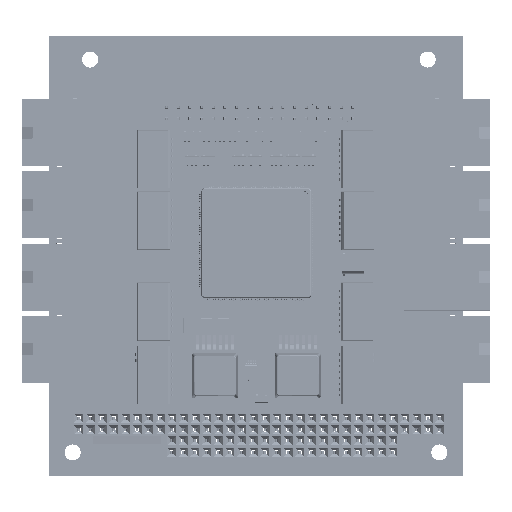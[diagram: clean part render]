
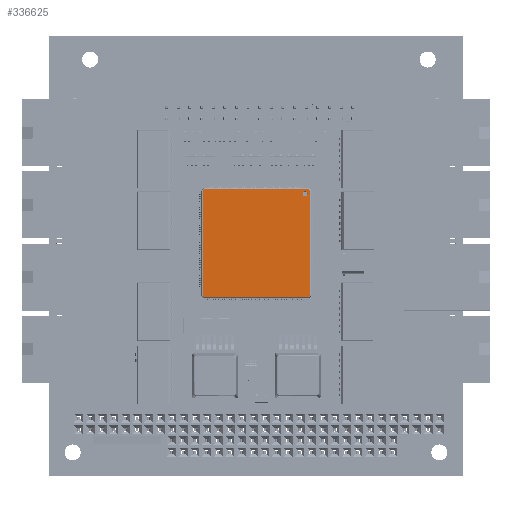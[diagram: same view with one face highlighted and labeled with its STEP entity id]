
A CAD part, top view. The second image highlights one B-rep face of the part: STEP entity #336625.
In plain terms, the highlighted planar face has unit normal (0, 0, 1).
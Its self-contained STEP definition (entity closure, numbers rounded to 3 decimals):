
#10899 = EDGE_CURVE ( 'NONE', #442462, #134359, #282522, .T. ) ;
#17541 = CARTESIAN_POINT ( 'NONE',  ( 56.883, 62.208, 3.185 ) ) ;
#30716 = ORIENTED_EDGE ( 'NONE', *, *, #275380, .T. ) ;
#46484 = CARTESIAN_POINT ( 'NONE',  ( 33.726, 62.453, 3.185 ) ) ;
#54487 = VERTEX_POINT ( 'NONE', #90136 ) ;
#62858 = VERTEX_POINT ( 'NONE', #126207 ) ;
#64903 = VECTOR ( 'NONE', #278853, 1000. ) ;
#68955 = EDGE_CURVE ( 'NONE', #54487, #54487, #192139, .T. ) ;
#73791 = VERTEX_POINT ( 'NONE', #284207 ) ;
#75208 = ORIENTED_EDGE ( 'NONE', *, *, #10899, .T. ) ;
#81117 = DIRECTION ( 'NONE',  ( 0., -1., 0. ) ) ;
#88735 = CARTESIAN_POINT ( 'NONE',  ( 56.939, 39.432, 3.185 ) ) ;
#90136 = CARTESIAN_POINT ( 'NONE',  ( 55.782, 60.952, 3.185 ) ) ;
#94923 = ORIENTED_EDGE ( 'NONE', *, *, #177103, .T. ) ;
#107227 = LINE ( 'NONE', #189041, #439431 ) ;
#110237 = FACE_BOUND ( 'NONE', #150583, .T. ) ;
#110587 = AXIS2_PLACEMENT_3D ( 'NONE', #434553, #475298, #360500 ) ;
#114715 = EDGE_CURVE ( 'NONE', #159945, #422964, #317110, .T. ) ;
#121698 = DIRECTION ( 'NONE',  ( 1., 0., 0. ) ) ;
#124628 = CARTESIAN_POINT ( 'NONE',  ( 33.481, 39.376, 3.185 ) ) ;
#126207 = CARTESIAN_POINT ( 'NONE',  ( 56.883, 62.128, 3.185 ) ) ;
#129546 = DIRECTION ( 'NONE',  ( 0.707, 0.707, 0. ) ) ;
#129727 = DIRECTION ( 'NONE',  ( 0., 1., 0. ) ) ;
#134359 = VERTEX_POINT ( 'NONE', #216466 ) ;
#138103 = EDGE_LOOP ( 'NONE', ( #75208, #451521, #30716, #478266, #448336, #438617, #94923, #143299 ) ) ;
#143299 = ORIENTED_EDGE ( 'NONE', *, *, #411806, .T. ) ;
#143426 = DIRECTION ( 'NONE',  ( -0.707, 0.707, 0. ) ) ;
#150583 = EDGE_LOOP ( 'NONE', ( #177477 ) ) ;
#156105 = DIRECTION ( 'NONE',  ( 0.707, -0.707, 0. ) ) ;
#159945 = VERTEX_POINT ( 'NONE', #301252 ) ;
#163750 = CARTESIAN_POINT ( 'NONE',  ( 33.862, 38.995, 3.185 ) ) ;
#165285 = DIRECTION ( 'NONE',  ( 0., 0., -1. ) ) ;
#171504 = VECTOR ( 'NONE', #143426, 1000. ) ;
#177103 = EDGE_CURVE ( 'NONE', #397655, #278820, #317265, .T. ) ;
#177477 = ORIENTED_EDGE ( 'NONE', *, *, #68955, .T. ) ;
#189041 = CARTESIAN_POINT ( 'NONE',  ( 33.425, 62.072, 3.185 ) ) ;
#192034 = CARTESIAN_POINT ( 'NONE',  ( 33.806, 62.453, 3.185 ) ) ;
#192139 = CIRCLE ( 'NONE', #445082, 0.55 ) ;
#216466 = CARTESIAN_POINT ( 'NONE',  ( 56.558, 39.051, 3.185 ) ) ;
#219557 = CARTESIAN_POINT ( 'NONE',  ( 33.806, 39.051, 3.185 ) ) ;
#243060 = VECTOR ( 'NONE', #129727, 1000. ) ;
#264671 = EDGE_CURVE ( 'NONE', #422964, #397655, #107227, .T. ) ;
#266080 = FACE_OUTER_BOUND ( 'NONE', #138103, .T. ) ;
#275380 = EDGE_CURVE ( 'NONE', #73791, #62858, #285528, .T. ) ;
#278820 = VERTEX_POINT ( 'NONE', #124628 ) ;
#278853 = DIRECTION ( 'NONE',  ( 0., -1., 0. ) ) ;
#282522 = LINE ( 'NONE', #471599, #324123 ) ;
#284207 = CARTESIAN_POINT ( 'NONE',  ( 56.883, 39.376, 3.185 ) ) ;
#285528 = LINE ( 'NONE', #17541, #243060 ) ;
#301252 = CARTESIAN_POINT ( 'NONE',  ( 56.558, 62.453, 3.185 ) ) ;
#301289 = CARTESIAN_POINT ( 'NONE',  ( 33.481, 62.128, 3.185 ) ) ;
#317110 = LINE ( 'NONE', #46484, #473730 ) ;
#317265 = LINE ( 'NONE', #472977, #64903 ) ;
#324123 = VECTOR ( 'NONE', #121698, 1000. ) ;
#324911 = EDGE_CURVE ( 'NONE', #62858, #159945, #335172, .T. ) ;
#330102 = CARTESIAN_POINT ( 'NONE',  ( 56.502, 62.509, 3.185 ) ) ;
#335172 = LINE ( 'NONE', #330102, #171504 ) ;
#336625 = ADVANCED_FACE ( 'NONE', ( #110237, #266080 ), #401317, .F. ) ;
#355409 = LINE ( 'NONE', #163750, #361961 ) ;
#360500 = DIRECTION ( 'NONE',  ( 0., 1., 0. ) ) ;
#361961 = VECTOR ( 'NONE', #156105, 1000. ) ;
#392472 = EDGE_CURVE ( 'NONE', #134359, #73791, #433707, .T. ) ;
#397655 = VERTEX_POINT ( 'NONE', #301289 ) ;
#400338 = CARTESIAN_POINT ( 'NONE',  ( 55.782, 61.502, 3.185 ) ) ;
#401317 = PLANE ( 'NONE',  #110587 ) ;
#411806 = EDGE_CURVE ( 'NONE', #278820, #442462, #355409, .T. ) ;
#421462 = DIRECTION ( 'NONE',  ( -0.707, -0.707, 0. ) ) ;
#422964 = VERTEX_POINT ( 'NONE', #192034 ) ;
#433707 = LINE ( 'NONE', #88735, #441476 ) ;
#434553 = CARTESIAN_POINT ( 'NONE',  ( 45.182, 50.752, 3.185 ) ) ;
#438617 = ORIENTED_EDGE ( 'NONE', *, *, #264671, .T. ) ;
#439431 = VECTOR ( 'NONE', #421462, 1000. ) ;
#441476 = VECTOR ( 'NONE', #129546, 1000. ) ;
#442462 = VERTEX_POINT ( 'NONE', #219557 ) ;
#445082 = AXIS2_PLACEMENT_3D ( 'NONE', #400338, #165285, #81117 ) ;
#448336 = ORIENTED_EDGE ( 'NONE', *, *, #114715, .T. ) ;
#451521 = ORIENTED_EDGE ( 'NONE', *, *, #392472, .T. ) ;
#471599 = CARTESIAN_POINT ( 'NONE',  ( 56.638, 39.051, 3.185 ) ) ;
#472818 = DIRECTION ( 'NONE',  ( -1., 0., 0. ) ) ;
#472977 = CARTESIAN_POINT ( 'NONE',  ( 33.481, 39.297, 3.185 ) ) ;
#473730 = VECTOR ( 'NONE', #472818, 1000. ) ;
#475298 = DIRECTION ( 'NONE',  ( 0., 0., -1. ) ) ;
#478266 = ORIENTED_EDGE ( 'NONE', *, *, #324911, .T. ) ;
